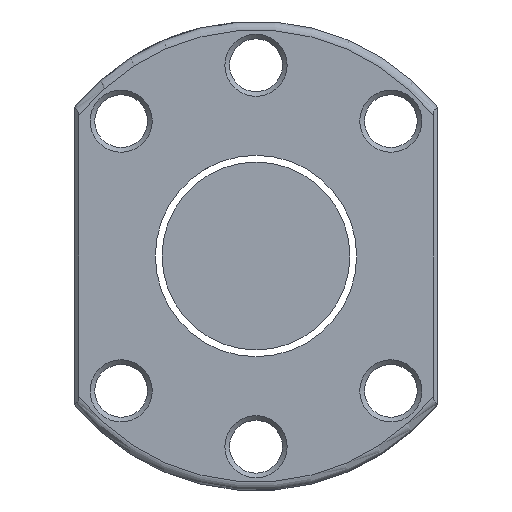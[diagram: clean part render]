
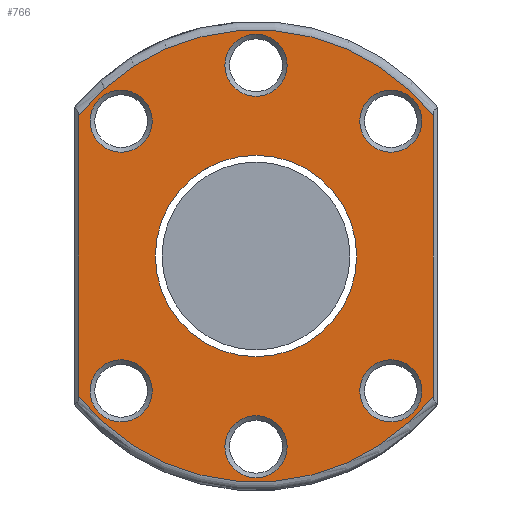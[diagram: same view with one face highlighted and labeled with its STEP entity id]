
A CAD part, left-side view. The second image highlights one B-rep face of the part: STEP entity #766.
In plain terms, the highlighted planar face has unit normal (-1, 0, 0).
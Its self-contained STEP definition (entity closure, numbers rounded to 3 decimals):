
#16 = FACE_OUTER_BOUND ( 'NONE', #459, .T. ) ;
#30 = AXIS2_PLACEMENT_3D ( 'NONE', #965, #2871, #707 ) ;
#40 = CARTESIAN_POINT ( 'NONE',  ( -57., 0., 32.5 ) ) ;
#63 = DIRECTION ( 'NONE',  ( 1., 0., 0. ) ) ;
#64 = FACE_BOUND ( 'NONE', #1567, .T. ) ;
#77 = CARTESIAN_POINT ( 'NONE',  ( -57., 22.981, -22.981 ) ) ;
#81 = CIRCLE ( 'NONE', #30, 5.3 ) ;
#128 = CARTESIAN_POINT ( 'NONE',  ( -57., 22.981, -17.681 ) ) ;
#143 = EDGE_CURVE ( 'NONE', #1391, #1391, #2727, .T. ) ;
#163 = EDGE_LOOP ( 'NONE', ( #2364 ) ) ;
#203 = VERTEX_POINT ( 'NONE', #1917 ) ;
#239 = DIRECTION ( 'NONE',  ( 1., 0., 0. ) ) ;
#295 = DIRECTION ( 'NONE',  ( 0., 0., 1. ) ) ;
#323 = DIRECTION ( 'NONE',  ( 0., 0., 1. ) ) ;
#371 = CARTESIAN_POINT ( 'NONE',  ( -57., 0., 37.8 ) ) ;
#386 = EDGE_CURVE ( 'NONE', #2077, #2077, #2222, .T. ) ;
#388 = EDGE_CURVE ( 'NONE', #1360, #1360, #1762, .T. ) ;
#407 = CARTESIAN_POINT ( 'NONE',  ( -57., 22.981, 28.281 ) ) ;
#438 = DIRECTION ( 'NONE',  ( 0., 0., -1. ) ) ;
#459 = EDGE_LOOP ( 'NONE', ( #2590, #2592, #2678, #1691 ) ) ;
#466 = VERTEX_POINT ( 'NONE', #2244 ) ;
#497 = CIRCLE ( 'NONE', #1566, 38.5 ) ;
#533 = FACE_BOUND ( 'NONE', #661, .T. ) ;
#551 = FACE_BOUND ( 'NONE', #163, .T. ) ;
#584 = DIRECTION ( 'NONE',  ( 0., 0., 1. ) ) ;
#595 = AXIS2_PLACEMENT_3D ( 'NONE', #740, #239, #1025 ) ;
#632 = VERTEX_POINT ( 'NONE', #407 ) ;
#637 = CARTESIAN_POINT ( 'NONE',  ( -57., 30.2, -23.879 ) ) ;
#648 = CIRCLE ( 'NONE', #1823, 38.5 ) ;
#661 = EDGE_LOOP ( 'NONE', ( #2339 ) ) ;
#706 = AXIS2_PLACEMENT_3D ( 'NONE', #1182, #1892, #3150 ) ;
#707 = DIRECTION ( 'NONE',  ( 0., 0., 1. ) ) ;
#736 = LINE ( 'NONE', #2856, #2331 ) ;
#740 = CARTESIAN_POINT ( 'NONE',  ( -57., -22.981, -22.981 ) ) ;
#766 = ADVANCED_FACE ( 'NONE', ( #1536, #2986, #533, #64, #1971, #551, #16, #1032 ), #1048, .T. ) ;
#802 = AXIS2_PLACEMENT_3D ( 'NONE', #40, #994, #2919 ) ;
#864 = EDGE_LOOP ( 'NONE', ( #1185 ) ) ;
#965 = CARTESIAN_POINT ( 'NONE',  ( -57., 22.981, 22.981 ) ) ;
#973 = CARTESIAN_POINT ( 'NONE',  ( -57., 0., 0. ) ) ;
#994 = DIRECTION ( 'NONE',  ( 1., 0., 0. ) ) ;
#1025 = DIRECTION ( 'NONE',  ( 0., 0., 1. ) ) ;
#1032 = FACE_BOUND ( 'NONE', #1913, .T. ) ;
#1048 = PLANE ( 'NONE',  #1212 ) ;
#1093 = EDGE_CURVE ( 'NONE', #2587, #2587, #3144, .T. ) ;
#1115 = AXIS2_PLACEMENT_3D ( 'NONE', #1272, #2766, #584 ) ;
#1138 = EDGE_CURVE ( 'NONE', #3101, #3101, #2578, .T. ) ;
#1165 = AXIS2_PLACEMENT_3D ( 'NONE', #77, #63, #1535 ) ;
#1182 = CARTESIAN_POINT ( 'NONE',  ( -57., -22.981, 22.981 ) ) ;
#1185 = ORIENTED_EDGE ( 'NONE', *, *, #1427, .T. ) ;
#1210 = DIRECTION ( 'NONE',  ( 1., 0., 0. ) ) ;
#1212 = AXIS2_PLACEMENT_3D ( 'NONE', #2477, #2699, #295 ) ;
#1272 = CARTESIAN_POINT ( 'NONE',  ( -57., 0., -32.5 ) ) ;
#1280 = DIRECTION ( 'NONE',  ( -1., 0., 0. ) ) ;
#1283 = EDGE_CURVE ( 'NONE', #2876, #466, #736, .T. ) ;
#1360 = VERTEX_POINT ( 'NONE', #1894 ) ;
#1391 = VERTEX_POINT ( 'NONE', #2109 ) ;
#1427 = EDGE_CURVE ( 'NONE', #632, #632, #81, .T. ) ;
#1508 = DIRECTION ( 'NONE',  ( -1., 0., 0. ) ) ;
#1519 = ORIENTED_EDGE ( 'NONE', *, *, #1093, .T. ) ;
#1529 = DIRECTION ( 'NONE',  ( 0., 0., 1. ) ) ;
#1535 = DIRECTION ( 'NONE',  ( 0., 0., 1. ) ) ;
#1536 = FACE_BOUND ( 'NONE', #864, .T. ) ;
#1566 = AXIS2_PLACEMENT_3D ( 'NONE', #2503, #1280, #323 ) ;
#1567 = EDGE_LOOP ( 'NONE', ( #2813 ) ) ;
#1658 = EDGE_CURVE ( 'NONE', #466, #203, #497, .T. ) ;
#1691 = ORIENTED_EDGE ( 'NONE', *, *, #2193, .T. ) ;
#1746 = EDGE_CURVE ( 'NONE', #2318, #2318, #1975, .T. ) ;
#1762 = CIRCLE ( 'NONE', #595, 5.3 ) ;
#1823 = AXIS2_PLACEMENT_3D ( 'NONE', #2020, #1508, #1529 ) ;
#1892 = DIRECTION ( 'NONE',  ( 1., 0., 0. ) ) ;
#1894 = CARTESIAN_POINT ( 'NONE',  ( -57., -22.981, -17.681 ) ) ;
#1913 = EDGE_LOOP ( 'NONE', ( #1519 ) ) ;
#1917 = CARTESIAN_POINT ( 'NONE',  ( -57., 30.2, 23.879 ) ) ;
#1930 = ORIENTED_EDGE ( 'NONE', *, *, #1138, .T. ) ;
#1971 = FACE_BOUND ( 'NONE', #2621, .T. ) ;
#1975 = CIRCLE ( 'NONE', #1165, 5.3 ) ;
#2020 = CARTESIAN_POINT ( 'NONE',  ( -57., 0., 0. ) ) ;
#2077 = VERTEX_POINT ( 'NONE', #371 ) ;
#2109 = CARTESIAN_POINT ( 'NONE',  ( -57., 0., -27.2 ) ) ;
#2127 = AXIS2_PLACEMENT_3D ( 'NONE', #973, #1210, #438 ) ;
#2130 = CARTESIAN_POINT ( 'NONE',  ( -57., 0., -17.15 ) ) ;
#2141 = ORIENTED_EDGE ( 'NONE', *, *, #1746, .T. ) ;
#2183 = DIRECTION ( 'NONE',  ( 0., 0., 1. ) ) ;
#2193 = EDGE_CURVE ( 'NONE', #2885, #2876, #648, .T. ) ;
#2222 = CIRCLE ( 'NONE', #802, 5.3 ) ;
#2244 = CARTESIAN_POINT ( 'NONE',  ( -57., -30.2, 23.879 ) ) ;
#2318 = VERTEX_POINT ( 'NONE', #128 ) ;
#2331 = VECTOR ( 'NONE', #2183, 1000. ) ;
#2339 = ORIENTED_EDGE ( 'NONE', *, *, #143, .T. ) ;
#2357 = DIRECTION ( 'NONE',  ( 0., 0., -1. ) ) ;
#2364 = ORIENTED_EDGE ( 'NONE', *, *, #386, .T. ) ;
#2391 = EDGE_LOOP ( 'NONE', ( #2141 ) ) ;
#2477 = CARTESIAN_POINT ( 'NONE',  ( -57., 40., 0. ) ) ;
#2503 = CARTESIAN_POINT ( 'NONE',  ( -57., 0., 0. ) ) ;
#2578 = CIRCLE ( 'NONE', #706, 5.3 ) ;
#2587 = VERTEX_POINT ( 'NONE', #2130 ) ;
#2590 = ORIENTED_EDGE ( 'NONE', *, *, #1283, .T. ) ;
#2592 = ORIENTED_EDGE ( 'NONE', *, *, #1658, .T. ) ;
#2621 = EDGE_LOOP ( 'NONE', ( #1930 ) ) ;
#2678 = ORIENTED_EDGE ( 'NONE', *, *, #2799, .T. ) ;
#2699 = DIRECTION ( 'NONE',  ( -1., 0., 0. ) ) ;
#2727 = CIRCLE ( 'NONE', #1115, 5.3 ) ;
#2766 = DIRECTION ( 'NONE',  ( 1., 0., 0. ) ) ;
#2799 = EDGE_CURVE ( 'NONE', #203, #2885, #3123, .T. ) ;
#2813 = ORIENTED_EDGE ( 'NONE', *, *, #388, .T. ) ;
#2856 = CARTESIAN_POINT ( 'NONE',  ( -57., -30.2, 25.278 ) ) ;
#2870 = CARTESIAN_POINT ( 'NONE',  ( -57., 30.2, -25.278 ) ) ;
#2871 = DIRECTION ( 'NONE',  ( 1., 0., 0. ) ) ;
#2876 = VERTEX_POINT ( 'NONE', #3089 ) ;
#2885 = VERTEX_POINT ( 'NONE', #637 ) ;
#2919 = DIRECTION ( 'NONE',  ( 0., 0., 1. ) ) ;
#2986 = FACE_BOUND ( 'NONE', #2391, .T. ) ;
#3041 = VECTOR ( 'NONE', #2357, 1000. ) ;
#3081 = CARTESIAN_POINT ( 'NONE',  ( -57., -22.981, 28.281 ) ) ;
#3089 = CARTESIAN_POINT ( 'NONE',  ( -57., -30.2, -23.879 ) ) ;
#3101 = VERTEX_POINT ( 'NONE', #3081 ) ;
#3123 = LINE ( 'NONE', #2870, #3041 ) ;
#3144 = CIRCLE ( 'NONE', #2127, 17.15 ) ;
#3150 = DIRECTION ( 'NONE',  ( 0., 0., 1. ) ) ;
